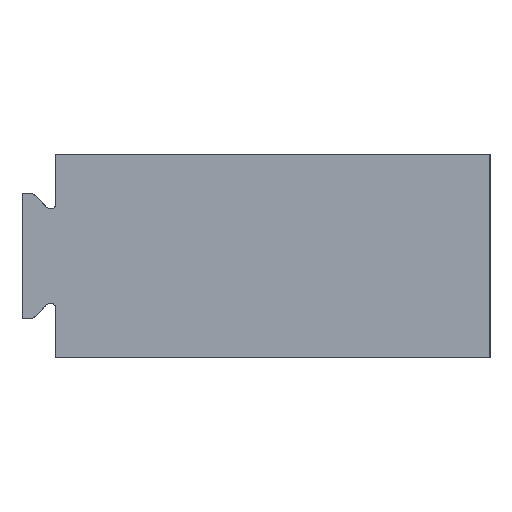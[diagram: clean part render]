
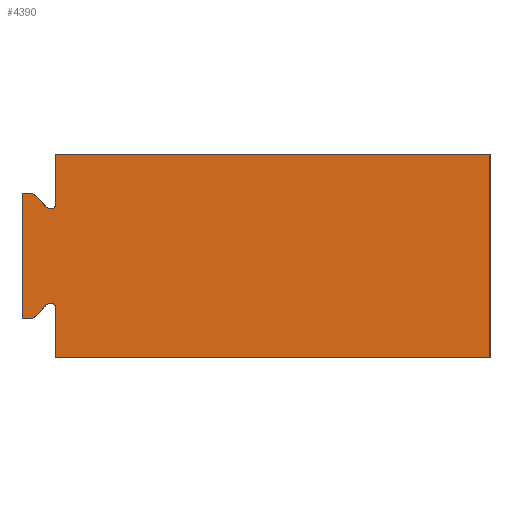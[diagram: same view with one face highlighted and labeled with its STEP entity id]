
A CAD part, left-side view. The second image highlights one B-rep face of the part: STEP entity #4390.
In plain terms, the highlighted planar face has unit normal (-1, 0, 0).
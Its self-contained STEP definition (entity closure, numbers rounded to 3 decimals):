
#13 = CARTESIAN_POINT ( 'NONE',  ( -50.8, 0., -7.5 ) ) ;
#58 = CARTESIAN_POINT ( 'NONE',  ( -50.8, 32.4, -3.876 ) ) ;
#64 = VECTOR ( 'NONE', #2688, 1000. ) ;
#65 = CARTESIAN_POINT ( 'NONE',  ( -50.8, 32.683, 3.593 ) ) ;
#133 = ORIENTED_EDGE ( 'NONE', *, *, #1026, .F. ) ;
#184 = EDGE_CURVE ( 'NONE', #1483, #3781, #2003, .T. ) ;
#202 = CIRCLE ( 'NONE', #1993, 0.4 ) ;
#280 = VECTOR ( 'NONE', #4167, 1000. ) ;
#284 = LINE ( 'NONE', #5220, #4251 ) ;
#341 = EDGE_CURVE ( 'NONE', #3009, #1256, #2085, .T. ) ;
#349 = EDGE_CURVE ( 'NONE', #1256, #3101, #1762, .T. ) ;
#396 = FACE_OUTER_BOUND ( 'NONE', #888, .T. ) ;
#406 = DIRECTION ( 'NONE',  ( 0., -1., 0. ) ) ;
#437 = CARTESIAN_POINT ( 'NONE',  ( -50.8, 34.5, 4.61 ) ) ;
#553 = LINE ( 'NONE', #2807, #3498 ) ;
#564 = DIRECTION ( 'NONE',  ( 0., 0., 1. ) ) ;
#663 = EDGE_CURVE ( 'NONE', #3781, #2295, #1323, .T. ) ;
#688 = CARTESIAN_POINT ( 'NONE',  ( -50.8, 32., -3.876 ) ) ;
#780 = CARTESIAN_POINT ( 'NONE',  ( -50.8, 32., -7.5 ) ) ;
#861 = EDGE_CURVE ( 'NONE', #3625, #3472, #4532, .T. ) ;
#888 = EDGE_LOOP ( 'NONE', ( #4632, #2321, #4306, #2589, #1204, #1235, #2605, #2360, #4942, #3069, #133, #4412, #1897 ) ) ;
#998 = AXIS2_PLACEMENT_3D ( 'NONE', #1521, #4792, #2752 ) ;
#1026 = EDGE_CURVE ( 'NONE', #3674, #4027, #202, .T. ) ;
#1052 = CARTESIAN_POINT ( 'NONE',  ( -50.8, 33.7, -4.61 ) ) ;
#1068 = EDGE_CURVE ( 'NONE', #2295, #3625, #1712, .T. ) ;
#1166 = DIRECTION ( 'NONE',  ( 0., 0., -1. ) ) ;
#1201 = CARTESIAN_POINT ( 'NONE',  ( -50.8, 33.7, 4.61 ) ) ;
#1204 = ORIENTED_EDGE ( 'NONE', *, *, #663, .F. ) ;
#1235 = ORIENTED_EDGE ( 'NONE', *, *, #184, .F. ) ;
#1239 = DIRECTION ( 'NONE',  ( 0., -1., 0. ) ) ;
#1256 = VERTEX_POINT ( 'NONE', #3727 ) ;
#1307 = DIRECTION ( 'NONE',  ( 0., 0., 1. ) ) ;
#1323 = CIRCLE ( 'NONE', #3538, 0.4 ) ;
#1403 = DIRECTION ( 'NONE',  ( -1., 0., 0. ) ) ;
#1482 = EDGE_CURVE ( 'NONE', #2471, #4788, #3643, .T. ) ;
#1483 = VERTEX_POINT ( 'NONE', #4415 ) ;
#1521 = CARTESIAN_POINT ( 'NONE',  ( -50.8, 32.4, -3.876 ) ) ;
#1534 = LINE ( 'NONE', #1052, #64 ) ;
#1555 = CARTESIAN_POINT ( 'NONE',  ( -50.8, 32.4, -3.476 ) ) ;
#1678 = DIRECTION ( 'NONE',  ( 0., 1., 0. ) ) ;
#1683 = DIRECTION ( 'NONE',  ( -1., 0., 0. ) ) ;
#1712 = LINE ( 'NONE', #1741, #3123 ) ;
#1741 = CARTESIAN_POINT ( 'NONE',  ( -50.8, 32., 7.5 ) ) ;
#1762 = LINE ( 'NONE', #437, #280 ) ;
#1811 = CARTESIAN_POINT ( 'NONE',  ( -50.8, 32.4, 3.876 ) ) ;
#1897 = ORIENTED_EDGE ( 'NONE', *, *, #4302, .F. ) ;
#1993 = AXIS2_PLACEMENT_3D ( 'NONE', #58, #1683, #3773 ) ;
#2003 = LINE ( 'NONE', #1201, #3105 ) ;
#2060 = CARTESIAN_POINT ( 'NONE',  ( -50.8, 32.4, 3.876 ) ) ;
#2085 = LINE ( 'NONE', #4515, #4888 ) ;
#2289 = CIRCLE ( 'NONE', #998, 0.4 ) ;
#2295 = VERTEX_POINT ( 'NONE', #4803 ) ;
#2321 = ORIENTED_EDGE ( 'NONE', *, *, #3286, .F. ) ;
#2335 = CARTESIAN_POINT ( 'NONE',  ( -50.8, 32.683, -3.593 ) ) ;
#2341 = EDGE_CURVE ( 'NONE', #4027, #3009, #1534, .T. ) ;
#2360 = ORIENTED_EDGE ( 'NONE', *, *, #349, .F. ) ;
#2440 = EDGE_CURVE ( 'NONE', #3101, #1483, #2497, .T. ) ;
#2471 = VERTEX_POINT ( 'NONE', #13 ) ;
#2497 = LINE ( 'NONE', #4854, #3561 ) ;
#2589 = ORIENTED_EDGE ( 'NONE', *, *, #1068, .F. ) ;
#2605 = ORIENTED_EDGE ( 'NONE', *, *, #2440, .F. ) ;
#2635 = VERTEX_POINT ( 'NONE', #688 ) ;
#2666 = EDGE_CURVE ( 'NONE', #2635, #3674, #2289, .T. ) ;
#2688 = DIRECTION ( 'NONE',  ( 0., 0.707, -0.707 ) ) ;
#2752 = DIRECTION ( 'NONE',  ( 0., 0., -1. ) ) ;
#2775 = DIRECTION ( 'NONE',  ( 0., 0., 1. ) ) ;
#2807 = CARTESIAN_POINT ( 'NONE',  ( -50.8, 32., -3.876 ) ) ;
#3009 = VERTEX_POINT ( 'NONE', #3737 ) ;
#3069 = ORIENTED_EDGE ( 'NONE', *, *, #2341, .F. ) ;
#3101 = VERTEX_POINT ( 'NONE', #4241 ) ;
#3105 = VECTOR ( 'NONE', #4837, 1000. ) ;
#3123 = VECTOR ( 'NONE', #4996, 1000. ) ;
#3286 = EDGE_CURVE ( 'NONE', #3472, #2471, #284, .T. ) ;
#3472 = VERTEX_POINT ( 'NONE', #3760 ) ;
#3498 = VECTOR ( 'NONE', #2775, 1000. ) ;
#3527 = PLANE ( 'NONE',  #4687 ) ;
#3538 = AXIS2_PLACEMENT_3D ( 'NONE', #1811, #1403, #564 ) ;
#3561 = VECTOR ( 'NONE', #1239, 1000. ) ;
#3564 = DIRECTION ( 'NONE',  ( 0., 1., 0. ) ) ;
#3615 = CARTESIAN_POINT ( 'NONE',  ( -50.8, 32., -7.5 ) ) ;
#3625 = VERTEX_POINT ( 'NONE', #4363 ) ;
#3643 = LINE ( 'NONE', #3615, #5161 ) ;
#3674 = VERTEX_POINT ( 'NONE', #1555 ) ;
#3727 = CARTESIAN_POINT ( 'NONE',  ( -50.8, 34.5, -4.61 ) ) ;
#3737 = CARTESIAN_POINT ( 'NONE',  ( -50.8, 33.7, -4.61 ) ) ;
#3758 = CARTESIAN_POINT ( 'NONE',  ( -50.8, 32., 7.5 ) ) ;
#3760 = CARTESIAN_POINT ( 'NONE',  ( -50.8, 0., 7.5 ) ) ;
#3773 = DIRECTION ( 'NONE',  ( 0., 0., -1. ) ) ;
#3781 = VERTEX_POINT ( 'NONE', #65 ) ;
#4027 = VERTEX_POINT ( 'NONE', #2335 ) ;
#4167 = DIRECTION ( 'NONE',  ( 0., 0., 1. ) ) ;
#4241 = CARTESIAN_POINT ( 'NONE',  ( -50.8, 34.5, 4.61 ) ) ;
#4251 = VECTOR ( 'NONE', #1166, 1000. ) ;
#4302 = EDGE_CURVE ( 'NONE', #4788, #2635, #553, .T. ) ;
#4306 = ORIENTED_EDGE ( 'NONE', *, *, #861, .F. ) ;
#4363 = CARTESIAN_POINT ( 'NONE',  ( -50.8, 32., 7.5 ) ) ;
#4390 = ADVANCED_FACE ( 'NONE', ( #396 ), #3527, .T. ) ;
#4412 = ORIENTED_EDGE ( 'NONE', *, *, #2666, .F. ) ;
#4415 = CARTESIAN_POINT ( 'NONE',  ( -50.8, 33.7, 4.61 ) ) ;
#4515 = CARTESIAN_POINT ( 'NONE',  ( -50.8, 34.5, -4.61 ) ) ;
#4532 = LINE ( 'NONE', #3758, #4574 ) ;
#4543 = DIRECTION ( 'NONE',  ( -1., 0., 0. ) ) ;
#4574 = VECTOR ( 'NONE', #406, 1000. ) ;
#4632 = ORIENTED_EDGE ( 'NONE', *, *, #1482, .F. ) ;
#4687 = AXIS2_PLACEMENT_3D ( 'NONE', #2060, #4543, #1307 ) ;
#4788 = VERTEX_POINT ( 'NONE', #780 ) ;
#4792 = DIRECTION ( 'NONE',  ( -1., 0., 0. ) ) ;
#4803 = CARTESIAN_POINT ( 'NONE',  ( -50.8, 32., 3.876 ) ) ;
#4837 = DIRECTION ( 'NONE',  ( 0., -0.707, -0.707 ) ) ;
#4854 = CARTESIAN_POINT ( 'NONE',  ( -50.8, 34.5, 4.61 ) ) ;
#4888 = VECTOR ( 'NONE', #1678, 1000. ) ;
#4942 = ORIENTED_EDGE ( 'NONE', *, *, #341, .F. ) ;
#4996 = DIRECTION ( 'NONE',  ( 0., 0., 1. ) ) ;
#5161 = VECTOR ( 'NONE', #3564, 1000. ) ;
#5220 = CARTESIAN_POINT ( 'NONE',  ( -50.8, 0., 7.5 ) ) ;
